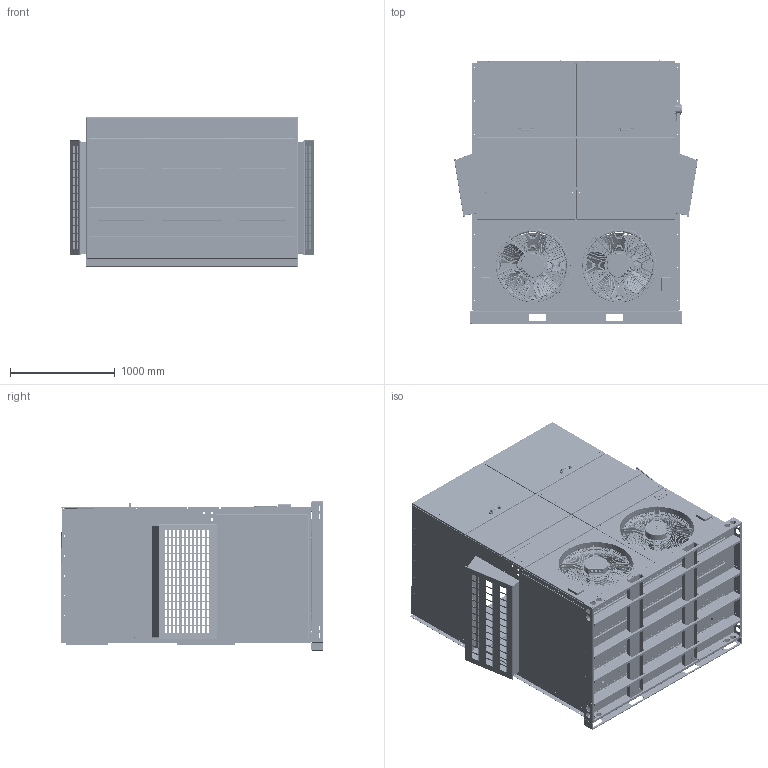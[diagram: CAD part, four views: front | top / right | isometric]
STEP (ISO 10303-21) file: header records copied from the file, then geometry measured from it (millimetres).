
FILE_DESCRIPTION (( 'STEP AP214' ), '1' );
FILE_NAME ('STEP_2900_9.STEP', '2022-11-29T15:31:19', ( '' ), ( '' ), 'SwSTEP 2.0', 'SolidWorks 2022', '' );
FILE_SCHEMA (( 'AUTOMOTIVE_DESIGN' ));
Length unit declared in the file: millimetre
Products named in the file (1): STEP_2900_9
Bounding box: 2324.05 x 2508.15 x 1422.4 mm (x, y, z)
Surface area: 62484098 mm2 (no closed solid volume)
Topology: 0 solids, 125 shells, 17500 faces, 49921 edges, 32088 vertices
Faces by surface type: plane 9926, cylinder 5199, bspline 1609, cone 514, torus 212, sphere 40
Entity records: 780897 total; most frequent: CARTESIAN_POINT 271114, ORIENTED_EDGE 99558, DIRECTION 85781, EDGE_CURVE 49791, VERTEX_POINT 32088, LINE 30179, VECTOR 30179, AXIS2_PLACEMENT_3D 27801
